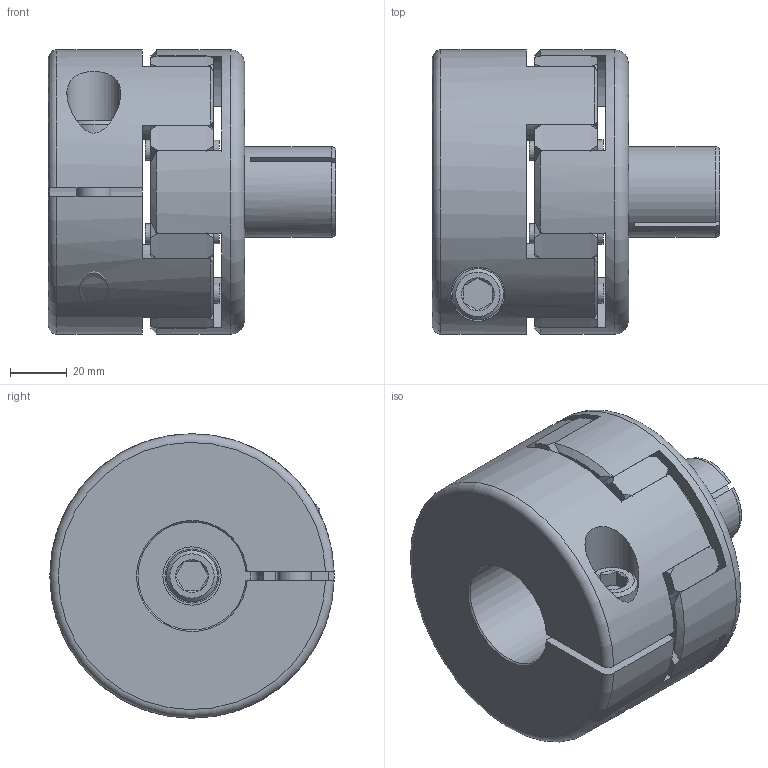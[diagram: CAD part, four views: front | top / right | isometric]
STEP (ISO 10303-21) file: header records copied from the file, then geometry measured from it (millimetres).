
FILE_DESCRIPTION(/* description */ ('STEP AP214'),/* implementation_level */ '2;1');
FILE_NAME(/* name */ 'EKS 400 - D1=38 D2=32',/* time_stamp */ '2026-10-28T12:29:00+01:00',/* author */ ('License CC BY-ND 4.0'),/* organization */ ('CADENAS'),/* preprocessor_version */ 'ST-DEVELOPER v20',/* originating_system */ 'PARTsolutions',/* authorisation */ ' ');
FILE_SCHEMA (('AUTOMOTIVE_DESIGN {1 0 10303 214 3 1 1}'));
Length unit declared in the file: millimetre
Products named in the file (5): EKS 400 - D1=38 D2=32; EKS 400 - D1=38_1_part1; 500; EKS 400 - D2=32_part2; Cylinder screw ISO 4762 M12x35
Assembly tree (5 placements, depth 2):
  EKS 400 - D1=38 D2=32
    EKS 400 - D1=38_1_part1
    500
    EKS 400 - D2=32_part2
    Cylinder screw ISO 4762 M12x35  x2
Bounding box: 101 x 100 x 100 mm (x, y, z)
Volume: 446754.5 mm3; surface area: 97688.4 mm2
Topology: 5 solids, 5 shells, 248 faces, 584 edges, 362 vertices
Faces by surface type: cone 95, cylinder 86, plane 59, torus 8
Full cylindrical faces by diameter (mm): 7 x8, 10.2 x1, 10.5 x1, 12 x2, 12.5 x2, 18 x2, 19 x2, 20.5 x1, 32 x1, 47 x2, 100 x1
Entity records: 7164 total; most frequent: CARTESIAN_POINT 1489, DIRECTION 1120, ORIENTED_EDGE 1010, AXIS2_PLACEMENT_3D 506, EDGE_CURVE 505, VERTEX_POINT 337, EDGE_LOOP 282, FACE_BOUND 282
